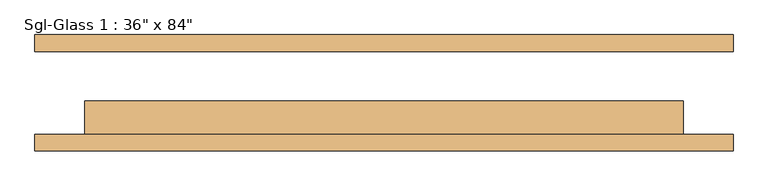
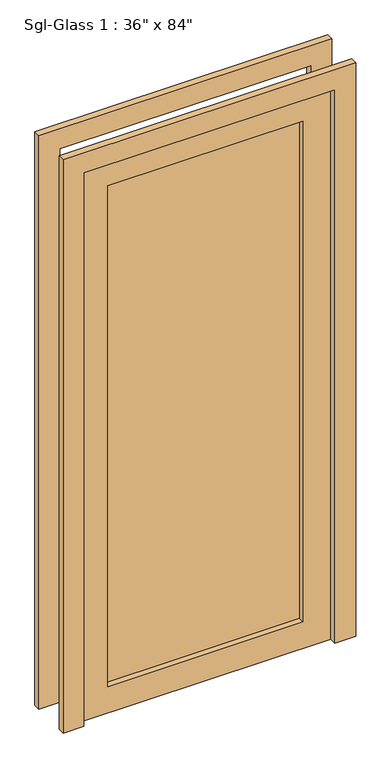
"""IFC4 building model written with IfcOpenShell, lengths in millimetres: door geometry."""

from ifc_helpers import new_model, si_unit, frame, origin, place, context, project, spatial, polyline, outline, extrude, source, transform, mapped, element, save


def door_df34b78b(model_context):
    return source(origin(), model_context, "Body", "SweptSolid", [
        extrude(outline(polyline([(2133.6, 457.2), (0.0, 457.2), (0.0, 533.4), (2209.8, 533.4), (2209.8, -533.4), (0.0, -533.4), (0.0, -457.2), (2133.6, -457.2), (2133.6, 457.2)])), frame((0.0, 63.5, 0.0), z_axis=(0.0, 1.0, 0.0), x_axis=(0.0, 0.0, 1.0)), (0.0, 0.0, 1.0), 25.4),
        extrude(outline(polyline([(2133.6, 457.2), (0.0, 457.2), (0.0, 533.4), (2209.8, 533.4), (2209.8, -533.4), (0.0, -533.4), (0.0, -457.2), (2133.6, -457.2), (2133.6, 457.2)])), frame((0.0, -88.9, 0.0), z_axis=(0.0, 1.0, 0.0), x_axis=(0.0, 0.0, 1.0)), (0.0, 0.0, 1.0), 25.4),
        extrude(outline(polyline([(355.6, -34.925), (355.6, -41.275), (-355.6, -41.275), (-355.6, -34.925), (355.6, -34.925)])), frame((0.0, 0.0, 101.6), z_axis=(0.0, 0.0, 1.0), x_axis=(1.0, 0.0, 0.0)), (0.0, 0.0, 1.0), 1930.4),
        extrude(outline(polyline([(2133.6, 457.2), (2133.6, -457.2), (0.0, -457.2), (0.0, 457.2), (2133.6, 457.2)]), holes=[polyline([(2032.0, -355.6), (2032.0, 355.6), (101.6, 355.6), (101.6, -355.6), (2032.0, -355.6)])]), frame((0.0, -63.5, 0.0), z_axis=(0.0, 1.0, 0.0), x_axis=(0.0, 0.0, 1.0)), (0.0, 0.0, 1.0), 50.8),
    ])


if __name__ == "__main__":
    model = new_model("IFC4")
    model_context = context("Model", 3, world=origin())
    ifc_project = project(units=[si_unit("LENGTHUNIT", "METRE", prefix="MILLI")], contexts=[model_context])
    site = spatial("IfcSite", under=ifc_project)
    building = spatial("IfcBuilding", under=site)
    placement = place(None, origin())
    door_shape = door_df34b78b(model_context)
    element("IfcDoor", 1, ObjectType="Sgl-Glass 1 : 36\" x 84\"", at=placement, inside=building, context=model_context, shape_type="MappedRepresentation", body=[
        mapped(door_shape, transform((0.0, 0.0, 0.0), x_axis=(1.0, 0.0, 0.0), y_axis=(0.0, 1.0, 0.0), z_axis=(0.0, 0.0, 1.0))),
    ])
    save(model, "model.ifc")
